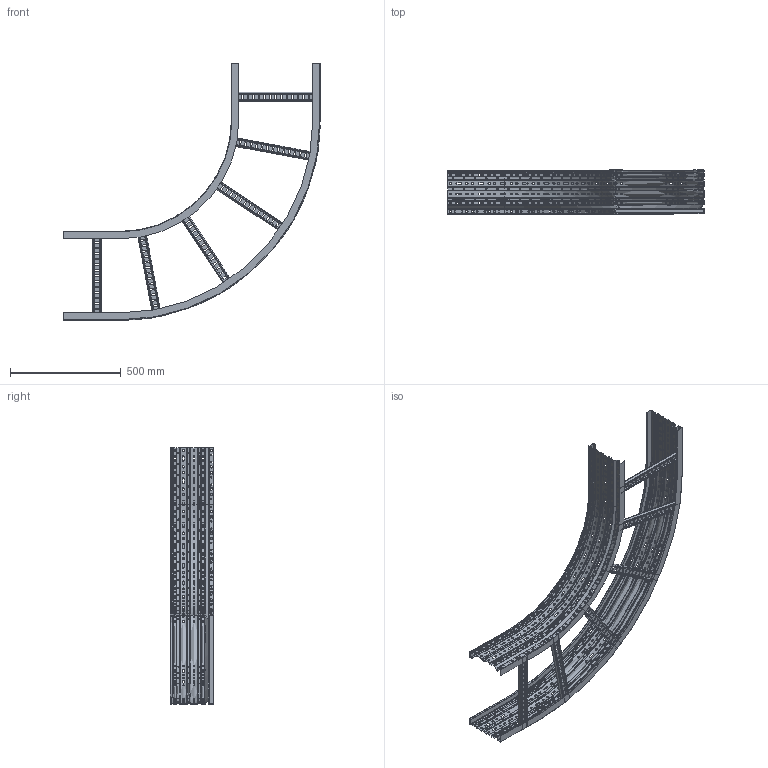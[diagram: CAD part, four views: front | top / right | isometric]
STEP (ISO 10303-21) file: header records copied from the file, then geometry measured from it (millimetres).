
FILE_DESCRIPTION (( 'STEP AP203' ), '1' );
FILE_NAME ('Ñáîðêà ïîâîðîòà 90 Í-200 ëåñòíè÷íûé.STEP', '2015-01-23T07:30:04', ( '' ), ( '' ), 'SwSTEP 2.0', 'SolidWorks 2014', '' );
FILE_SCHEMA (( 'CONFIG_CONTROL_DESIGN' ));
Products named in the file (4): 呧翲歑鍙 碴麔謥臇鴇 200; Traversino 39x19x1.5_1_400:(1,5); 呧翲歑鍙  縺賾緱鴇 200_400; Ñáîðêà ïîâîðîòà 90 Í-200 ëåñòíè÷íûé
Assembly tree (8 placements, depth 2):
  Ñáîðêà ïîâîðîòà 90 Í-200 ëåñòíè÷íûé
    呧翲歑鍙 碴麔謥臇鴇 200
    Traversino 39x19x1.5_1_400:(1,5)  x6
    呧翲歑鍙  縺賾緱鴇 200_400
Bounding box: 1158.7 x 197.9 x 1158.7 mm (x, y, z)
Volume: 1801751.2 mm3; surface area: 2460738.1 mm2
Topology: 8 solids, 8 shells, 5011 faces, 14170 edges, 9221 vertices
Faces by surface type: cylinder 2351, plane 2256, bspline 308, torus 88, cone 8
Entity records: 168701 total; most frequent: CARTESIAN_POINT 70170, ORIENTED_EDGE 21820, DIRECTION 18070, EDGE_CURVE 10910, VERTEX_POINT 7181, AXIS2_PLACEMENT_3D 6371, VECTOR 5328, LINE 5328
